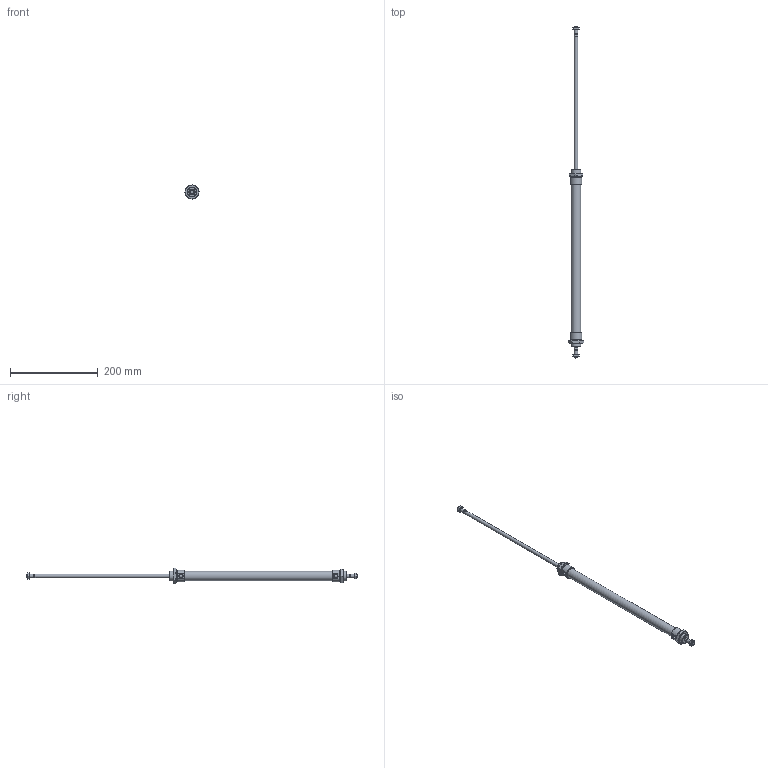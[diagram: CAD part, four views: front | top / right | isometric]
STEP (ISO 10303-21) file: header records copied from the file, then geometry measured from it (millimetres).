
FILE_DESCRIPTION((''),'2;1');
FILE_NAME('I:\Area Tecnica\Disegni\VARIE-3D\Componenti\1280\1282_##_####_#\1282_20_0300.iam.stp','2009-06-03T15:25:35',(''),(''),'Autodesk Inventor 2010','Autodesk Inventor 2010','');
FILE_SCHEMA(('AUTOMOTIVE_DESIGN { 1 0 10303 214 1 1 1 1 }'));
Length unit declared in the file: millimetre
Products named in the file (5): 1282_20_0300; C1282_20_300; S1282_20_300; 1200_20_05; 1200_20_06
Assembly tree (6 placements, depth 2):
  1282_20_0300
    C1282_20_300
    S1282_20_300
    1200_20_05  x2
    1200_20_06  x2
Bounding box: 34.64 x 756 x 34.64 mm (x, y, z)
Volume: 173645.1 mm3; surface area: 63390.2 mm2
Topology: 6 solids, 6 shells, 141 faces, 309 edges, 184 vertices
Faces by surface type: plane 60, cone 52, bspline 18, cylinder 11
Full cylindrical faces by diameter (mm): 6.5 x2, 8 x4, 21.2 x1, 22 x2
Entity records: 2813 total; most frequent: CARTESIAN_POINT 727, DIRECTION 386, ORIENTED_EDGE 352, EDGE_CURVE 176, AXIS2_PLACEMENT_3D 169, EDGE_LOOP 132, VERTEX_POINT 116, STYLED_ITEM 99
